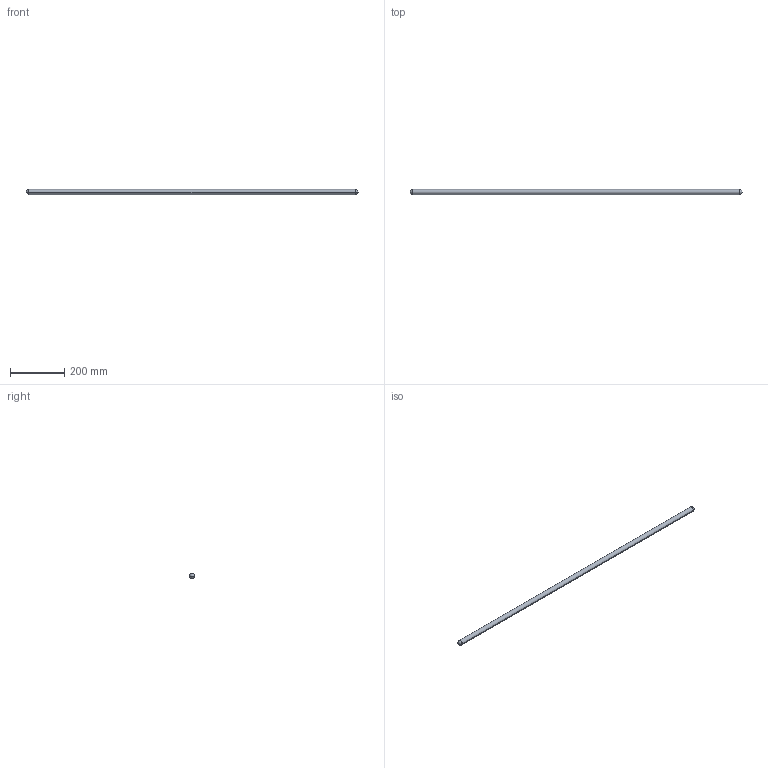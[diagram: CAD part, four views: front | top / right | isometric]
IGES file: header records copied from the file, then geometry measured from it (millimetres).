
Start section:  PTC IGES file: 990-007_HOR_CROSSBAR.igs
Global section: file name: 990-007_HOR_CROSSBAR.igs; native system: Creo Parametric by PTC Inc.; preprocessor: 2019010; author: usch_engrender; organization: Unknown; date: 20210716.113638; units: inch
Bounding box: 1219.2 x 19.05 x 19.05 mm (x, y, z)
Surface area: 72965.9 mm2 (no closed solid volume)
Topology: 0 solids, 1 shells, 6 faces, 14 edges, 6 vertices
Faces by surface type: revolution 6
